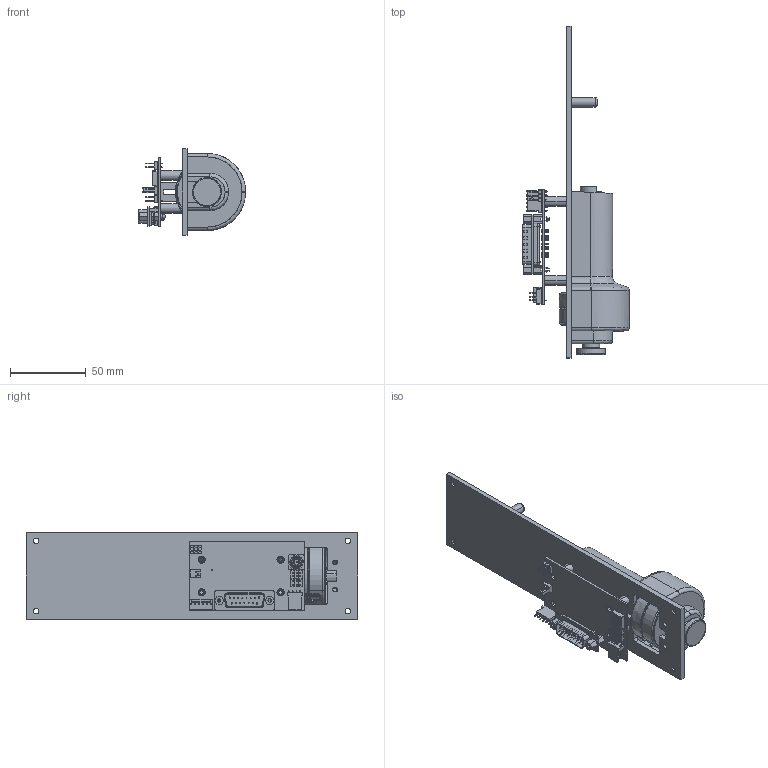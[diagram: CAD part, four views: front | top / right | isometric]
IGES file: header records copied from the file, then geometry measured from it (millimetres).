
Start section: SolidWorks IGES file using analytic representation for surfaces
Global section: file name: C:\SWPDM\GDT\TriContinent\MOD\Assembly Web\MOD91028\MOD91028 RA.IGS; native system: SolidWorks 2015; preprocessor: SolidWorks 2015; author: RAW2042; date: 170522.141217; units: inch
Bounding box: 70.55 x 218.95 x 56.9 mm (x, y, z)
Surface area: 71175.1 mm2 (no closed solid volume)
Topology: 0 solids, 0 shells, 896 faces, 12135 edges, 12135 vertices
Faces by surface type: bspline 621, revolution 275
